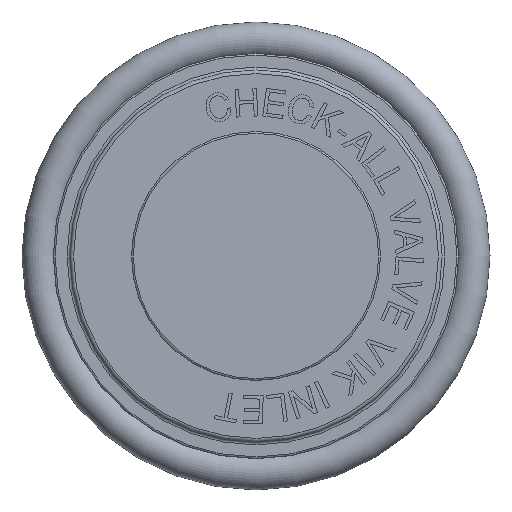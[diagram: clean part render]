
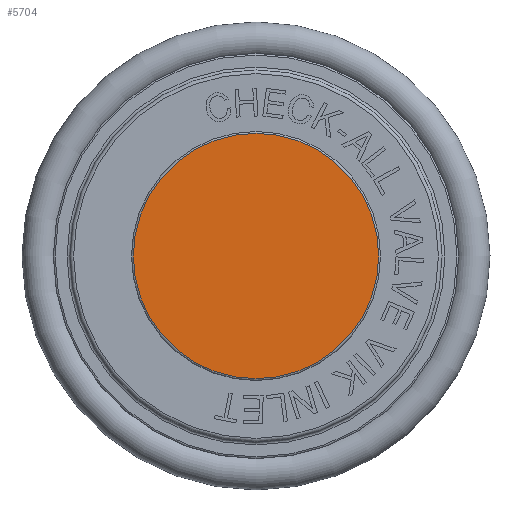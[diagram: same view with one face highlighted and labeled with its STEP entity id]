
A CAD part, left-side view. The second image highlights one B-rep face of the part: STEP entity #5704.
In plain terms, the highlighted planar face has unit normal (-1, 0, 0).
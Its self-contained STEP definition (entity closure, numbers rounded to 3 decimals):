
#54=CIRCLE('',#5950,17.145);
#269=ORIENTED_EDGE('',*,*,#1403,.T.);
#1403=EDGE_CURVE('',#1970,#1970,#54,.F.);
#1970=VERTEX_POINT('',#7697);
#3257=EDGE_LOOP('',(#269));
#3554=FACE_BOUND('',#3257,.T.);
#3828=PLANE('',#5949);
#5704=ADVANCED_FACE('',(#3554),#3828,.F.);
#5949=AXIS2_PLACEMENT_3D('',#7695,#6391,#6392);
#5950=AXIS2_PLACEMENT_3D('',#7696,#6393,#6394);
#6391=DIRECTION('',(1.,0.,0.));
#6392=DIRECTION('',(0.,0.,-1.));
#6393=DIRECTION('',(1.,0.,0.));
#6394=DIRECTION('',(0.,0.,-1.));
#7695=CARTESIAN_POINT('',(0.,0.,0.));
#7696=CARTESIAN_POINT('',(0.,0.,0.));
#7697=CARTESIAN_POINT('',(0.,0.,-17.145));
